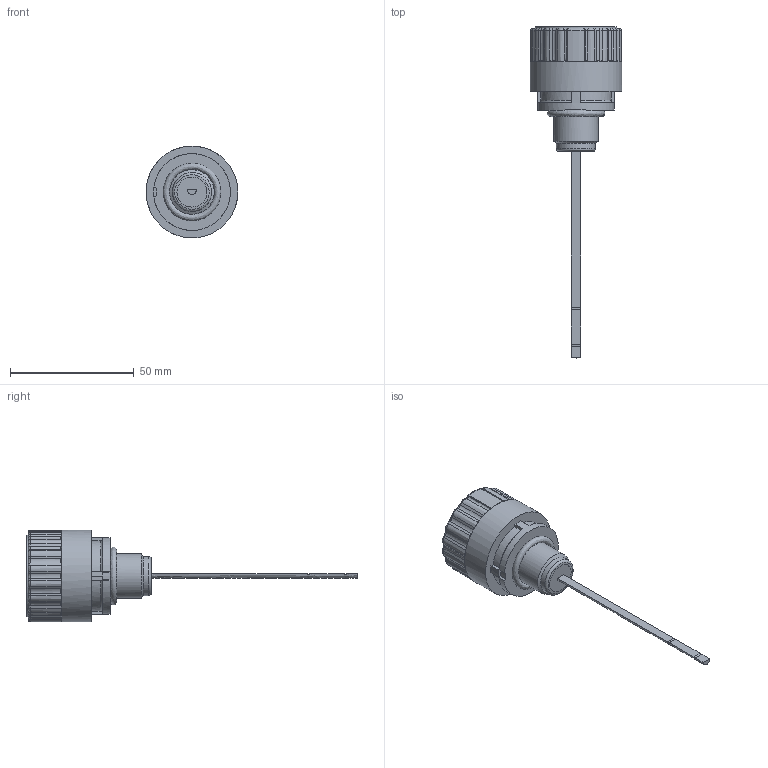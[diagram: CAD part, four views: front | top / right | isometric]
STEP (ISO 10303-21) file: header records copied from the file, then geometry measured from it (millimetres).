
FILE_DESCRIPTION((''),'2;1');
FILE_NAME('U:\Users\r.stiegele\L1_0406-69(12153200).stp', '2014-03-11T07:41:14',('User'),('SDRC'),'I-DEAS Master Series 9','UNIX', 'Yes');
FILE_SCHEMA(('AUTOMOTIVE_DESIGN { 1 0 10303 214 1 1 1 1 }'));
Length unit declared in the file: millimetre
Products named in the file (1): 12153200(334693)
Bounding box: 36.97 x 133.9 x 36.98 mm (x, y, z)
Volume: 37440.9 mm3; surface area: 8042.7 mm2
Topology: 1 solids, 1 shells, 442 faces, 1184 edges, 759 vertices
Faces by surface type: bspline 442
Entity records: 13684 total; most frequent: CARTESIAN_POINT 6714, ORIENTED_EDGE 2360, EDGE_CURVE 1180, VERTEX_POINT 759, B_SPLINE_CURVE_WITH_KNOTS 577, EDGE_LOOP 461, FACE_OUTER_BOUND 442, ADVANCED_FACE 442
